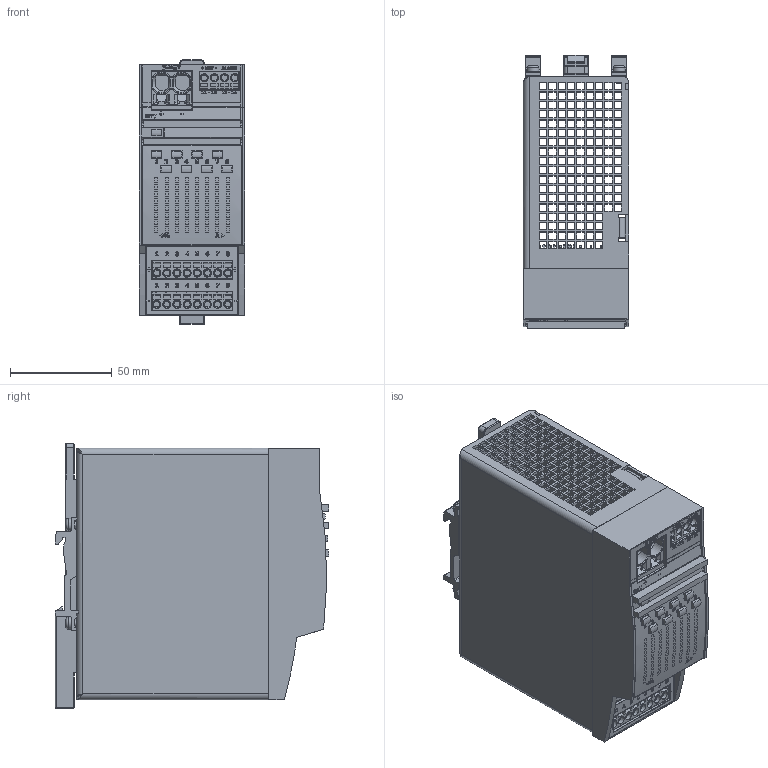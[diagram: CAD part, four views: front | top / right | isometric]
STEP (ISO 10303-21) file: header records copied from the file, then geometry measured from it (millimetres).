
FILE_DESCRIPTION(/* description */ (''),/* implementation_level */ '2;1');
FILE_NAME(/* name */ 'C:\Vault-Work\Vault\Designs\MARKETING\Internet\400-449\432.00\md3_PISA_B_812_B1.stp',/* time_stamp */ '2021-02-02T22:36:19+01:00',/* author */ ('Huhn'),/* organization */ (''),/* preprocessor_version */ 'ST-DEVELOPER v18.1',/* originating_system */ 'Autodesk Inventor 2020',/* authorisation */ '');
FILE_SCHEMA (('AUTOMOTIVE_DESIGN { 1 0 10303 214 3 1 1 }'));
Products named in the file (14): 432.00; HOUSING BODY 432.00_1; HOUSING BODY 432.00_2; HOUSING COVER 432.00; BUS Grey 432.00; FRONT FOIL2 432.00; FRONT FOIL3 432.00; MKT_SLIDER; MKT_T HOLDER1; MKT_SCREW 3x6; KO-07000073-272 Push-In Connector 4-fach SPT 2,5_8 Phoenix 1991150; XT-LP2BK-E9; XT-LP8BK-E5; FRONT FOIL1 432.00
Assembly tree (19 placements, depth 2):
  432.00
    HOUSING BODY 432.00_1
    HOUSING BODY 432.00_2
    HOUSING COVER 432.00
    BUS Grey 432.00  x2
    FRONT FOIL2 432.00
    FRONT FOIL3 432.00
    MKT_SLIDER
    MKT_T HOLDER1  x2
    MKT_SCREW 3x6  x4
    KO-07000073-272 Push-In Connector 4-fach SPT 2,5_8 Phoenix 1991150
    XT-LP2BK-E9
    XT-LP8BK-E5  x2
    FRONT FOIL1 432.00
Bounding box: 52 x 134.75 x 130.5 mm (x, y, z)
Volume: 126385.8 mm3; surface area: 144101.5 mm2
Topology: 22 solids, 22 shells, 4571 faces, 12433 edges, 8286 vertices
Faces by surface type: plane 3524, cylinder 510, bspline 413, cone 100, torus 16, sphere 8
Full cylindrical faces by diameter (mm): 0.457 x3, 1 x36, 1.1 x40, 1.5 x18, 2.45 x2, 3 x4, 3.1 x4, 3.55 x2, 4 x20, 4.27 x1, 6 x4
Entity records: 138459 total; most frequent: CARTESIAN_POINT 35644, ORIENTED_EDGE 21878, DIRECTION 18789, EDGE_CURVE 10939, LINE 8635, VECTOR 8635, VERTEX_POINT 7270, AXIS2_PLACEMENT_3D 5077
